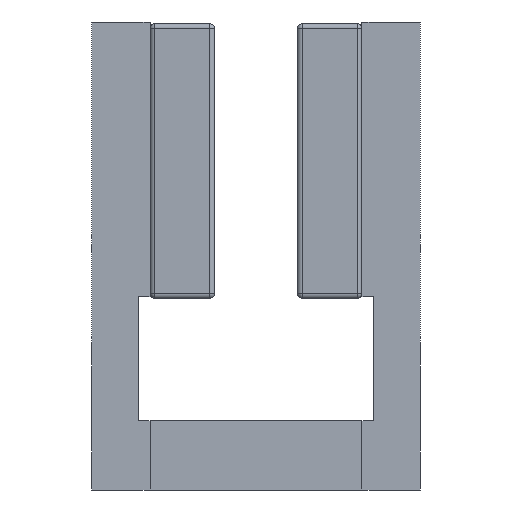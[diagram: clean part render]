
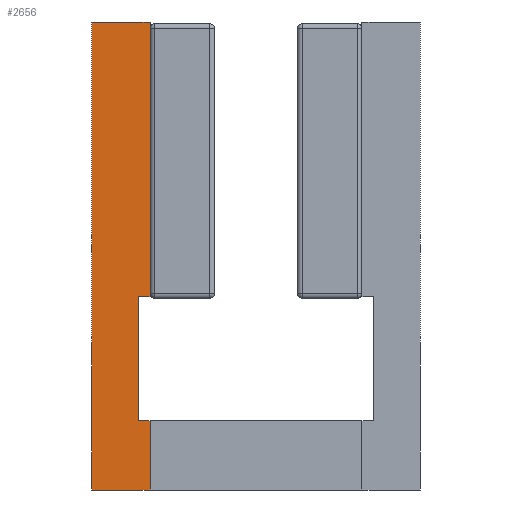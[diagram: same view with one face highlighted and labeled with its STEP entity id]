
A CAD part, front view. The second image highlights one B-rep face of the part: STEP entity #2656.
In plain terms, the highlighted planar face has unit normal (0, -1, 0).
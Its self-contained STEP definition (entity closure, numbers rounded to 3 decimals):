
#128 = DIRECTION ( 'NONE',  ( 0., 0., -1. ) ) ;
#821 = VERTEX_POINT ( 'NONE', #10404 ) ;
#825 = CARTESIAN_POINT ( 'NONE',  ( -4.702, -141.89, 18.723 ) ) ;
#899 = CARTESIAN_POINT ( 'NONE',  ( -4.702, -141.89, 11.223 ) ) ;
#1152 = CARTESIAN_POINT ( 'NONE',  ( -4.702, -141.89, 62.023 ) ) ;
#1778 = DIRECTION ( 'NONE',  ( 0., 0., 1. ) ) ;
#1869 = LINE ( 'NONE', #825, #11501 ) ;
#2249 = ORIENTED_EDGE ( 'NONE', *, *, #7999, .T. ) ;
#2585 = ORIENTED_EDGE ( 'NONE', *, *, #6029, .F. ) ;
#2641 = CARTESIAN_POINT ( 'NONE',  ( -11.052, -141.89, 62.023 ) ) ;
#2656 = ADVANCED_FACE ( 'Defeatured_0_5', ( #13238 ), #9197, .T. ) ;
#3743 = LINE ( 'NONE', #11233, #14572 ) ;
#3917 = AXIS2_PLACEMENT_3D ( 'NONE', #12914, #5248, #15582 ) ;
#4225 = VERTEX_POINT ( 'NONE', #7976 ) ;
#4261 = EDGE_CURVE ( 'Defeatured_0_5+Defeatured_0_8+Defeatured_0_6+Defeatured_0_7', #12075, #821, #15737, .T. ) ;
#4430 = CARTESIAN_POINT ( 'NONE',  ( -11.052, -141.89, 62.023 ) ) ;
#5246 = CARTESIAN_POINT ( 'NONE',  ( -6.002, -141.89, 18.723 ) ) ;
#5248 = DIRECTION ( 'NONE',  ( 0., -1., 0. ) ) ;
#5360 = LINE ( 'NONE', #1152, #14040 ) ;
#5506 = EDGE_CURVE ( 'Defeatured_0_5+Defeatured_0_43+Defeatured_0_7+Defeatured_0_3', #5808, #11101, #9870, .T. ) ;
#5630 = ORIENTED_EDGE ( 'NONE', *, *, #6636, .T. ) ;
#5808 = VERTEX_POINT ( 'NONE', #8131 ) ;
#5909 = VECTOR ( 'NONE', #16020, 1000. ) ;
#6029 = EDGE_CURVE ( 'Defeatured_0_2+Defeatured_0_5+Defeatured_0_1+Defeatured_0_3', #16058, #14426, #3743, .T. ) ;
#6142 = EDGE_CURVE ( 'Defeatured_0_5+Defeatured_0_6+Defeatured_0_0+Defeatured_0_8', #4225, #12075, #5360, .T. ) ;
#6147 = ORIENTED_EDGE ( 'NONE', *, *, #5506, .T. ) ;
#6480 = LINE ( 'NONE', #16981, #5909 ) ;
#6636 = EDGE_CURVE ( 'Defeatured_0_5+Defeatured_0_7+Defeatured_0_8+Defeatured_0_43', #821, #5808, #6480, .T. ) ;
#7125 = DIRECTION ( 'NONE',  ( 1., 0., 0. ) ) ;
#7263 = DIRECTION ( 'NONE',  ( 0., 0., -1. ) ) ;
#7976 = CARTESIAN_POINT ( 'NONE',  ( -4.702, -141.89, 62.023 ) ) ;
#7999 = EDGE_CURVE ( 'Defeatured_0_5+Defeatured_0_0+Defeatured_0_1+Defeatured_0_6', #11436, #4225, #17009, .T. ) ;
#8131 = CARTESIAN_POINT ( 'NONE',  ( -4.702, -141.89, 11.223 ) ) ;
#8690 = EDGE_CURVE ( 'Defeatured_0_1+Defeatured_0_5+Defeatured_0_0+Defeatured_0_2', #11436, #16058, #14902, .T. ) ;
#9176 = VECTOR ( 'NONE', #128, 1000. ) ;
#9197 = PLANE ( 'NONE',  #3917 ) ;
#9780 = CARTESIAN_POINT ( 'NONE',  ( -4.702, -141.89, 11.223 ) ) ;
#9870 = LINE ( 'NONE', #9780, #12634 ) ;
#10091 = VECTOR ( 'NONE', #10447, 1000. ) ;
#10404 = CARTESIAN_POINT ( 'NONE',  ( -11.052, -141.89, 11.223 ) ) ;
#10447 = DIRECTION ( 'NONE',  ( 0., 0., 1. ) ) ;
#11101 = VERTEX_POINT ( 'NONE', #16994 ) ;
#11196 = CARTESIAN_POINT ( 'NONE',  ( -4.702, -141.89, 32.223 ) ) ;
#11233 = CARTESIAN_POINT ( 'NONE',  ( -6.002, -141.89, 18.723 ) ) ;
#11436 = VERTEX_POINT ( 'NONE', #15085 ) ;
#11501 = VECTOR ( 'NONE', #7125, 1000. ) ;
#11616 = ORIENTED_EDGE ( 'NONE', *, *, #15820, .F. ) ;
#12075 = VERTEX_POINT ( 'NONE', #4430 ) ;
#12230 = DIRECTION ( 'NONE',  ( -1., 0., 0. ) ) ;
#12634 = VECTOR ( 'NONE', #1778, 1000. ) ;
#12818 = ORIENTED_EDGE ( 'NONE', *, *, #4261, .T. ) ;
#12914 = CARTESIAN_POINT ( 'NONE',  ( -4.702, -141.89, 11.223 ) ) ;
#12945 = DIRECTION ( 'NONE',  ( -1., 0., 0. ) ) ;
#13238 = FACE_OUTER_BOUND ( 'NONE', #14202, .T. ) ;
#13679 = VECTOR ( 'NONE', #12230, 1000. ) ;
#14040 = VECTOR ( 'NONE', #12945, 1000. ) ;
#14202 = EDGE_LOOP ( 'NONE', ( #11616, #2585, #15406, #2249, #15494, #12818, #5630, #6147 ) ) ;
#14426 = VERTEX_POINT ( 'NONE', #5246 ) ;
#14572 = VECTOR ( 'NONE', #7263, 1000. ) ;
#14902 = LINE ( 'NONE', #11196, #13679 ) ;
#15021 = CARTESIAN_POINT ( 'NONE',  ( -6.002, -141.89, 32.223 ) ) ;
#15085 = CARTESIAN_POINT ( 'NONE',  ( -4.702, -141.89, 32.223 ) ) ;
#15406 = ORIENTED_EDGE ( 'NONE', *, *, #8690, .F. ) ;
#15494 = ORIENTED_EDGE ( 'NONE', *, *, #6142, .T. ) ;
#15582 = DIRECTION ( 'NONE',  ( 0., 0., 1. ) ) ;
#15737 = LINE ( 'NONE', #2641, #9176 ) ;
#15820 = EDGE_CURVE ( 'Defeatured_0_3+Defeatured_0_5+Defeatured_0_2+Defeatured_0_46', #14426, #11101, #1869, .T. ) ;
#16020 = DIRECTION ( 'NONE',  ( 1., 0., 0. ) ) ;
#16058 = VERTEX_POINT ( 'NONE', #15021 ) ;
#16981 = CARTESIAN_POINT ( 'NONE',  ( -11.052, -141.89, 11.223 ) ) ;
#16994 = CARTESIAN_POINT ( 'NONE',  ( -4.702, -141.89, 18.723 ) ) ;
#17009 = LINE ( 'NONE', #899, #10091 ) ;
